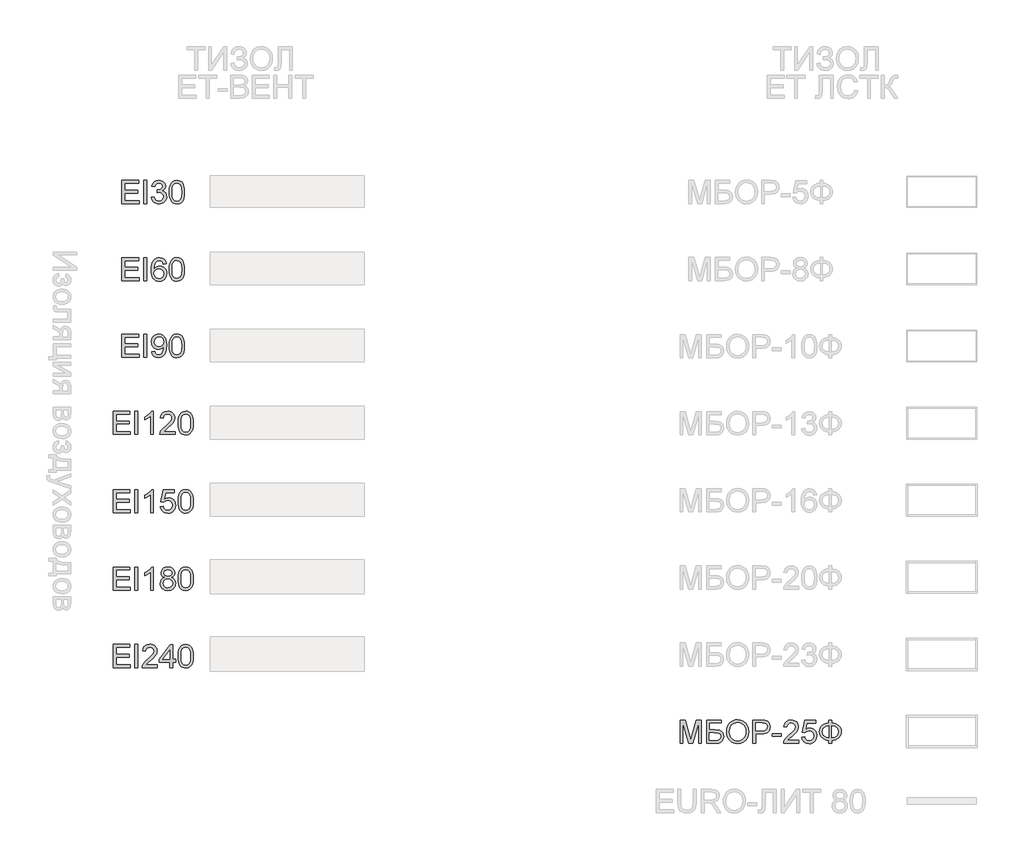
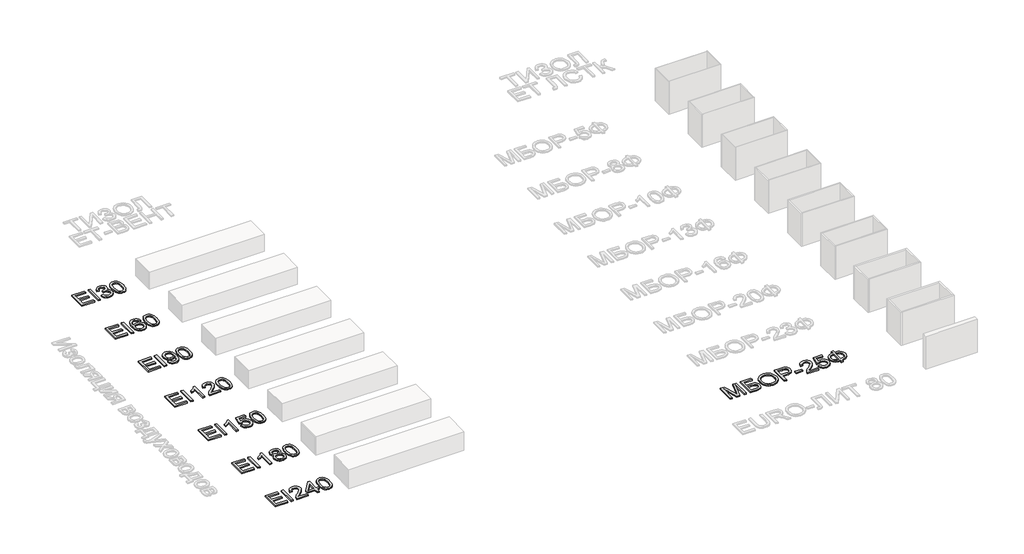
# One storey, part 11 of 35: 8 proxies.
"""IFC4 building model written with IfcOpenShell, lengths in millimetres."""

from ifc_helpers import new_model, si_unit, origin, origin_with_axes, place, context, project, spatial, polyline, outline, extrude, element, save

model = new_model("IFC4")

# Units and contexts
model_context = context("Model", 3, world=origin())
ifc_project = project(units=[si_unit("LENGTHUNIT", "METRE", prefix="MILLI")], contexts=[model_context])

# Site, building, storey
site = spatial("IfcSite", under=ifc_project)
building = spatial("IfcBuilding", under=site)
storey = spatial("IfcBuildingStorey", under=building, Name="Этаж 01", Elevation=0.0)

# Proxies
placement = place(None, origin())
element("IfcBuildingElementProxy", 1, Name="600 мм Arial", ObjectType="600 мм Arial", at=placement, inside=storey, context=model_context, shape_type="SweptSolid", body=[
    extrude(outline(polyline([(369.2738931, -49310.4960856), (369.2738931, -49009.1271552), (585.8828118, -49009.1271552), (585.8828118, -49046.7982715), (406.9450094, -49046.7982715), (406.9450094, -49136.2671727), (576.4650328, -49136.2671727), (576.4650328, -49173.938289), (406.9450094, -49173.938289), (406.9450094, -49272.8249693), (590.5917014, -49272.8249693), (590.5917014, -49310.4960856), (369.2738931, -49310.4960856)])), origin_with_axes(), (0.0, 0.0, 1.0), 20.0),
    extrude(outline(polyline([(651.8072654, -49310.4960856), (651.8072654, -49009.1271552), (689.4783817, -49009.1271552), (689.4783817, -49310.4960856), (651.8072654, -49310.4960856)])), origin_with_axes(), (0.0, 0.0, 1.0), 20.0),
    extrude(outline(polyline([(750.6939457, -49230.4449635), (788.365062, -49225.736074), (796.7987567, -49249.4092803), (809.1503947, -49265.393753), (826.0269812, -49274.4988324), (848.0355216, -49277.5338589), (873.8608377, -49273.3583982), (893.8000418, -49260.8320163), (906.5471529, -49242.1436109), (910.79619, -49219.48208), (906.5839411, -49197.9701804), (893.9471946, -49180.5233768), (874.8173308, -49168.9626851), (851.1257303, -49165.1091212), (824.7118031, -49169.2293995), (828.9056578, -49131.5582832), (834.9389226, -49131.9997416), (857.508483, -49129.2958089), (877.6868104, -49121.1840109), (891.9238436, -49107.4620125), (896.6695214, -49087.9274786), (893.2298247, -49071.6578973), (882.9107347, -49058.4601308), (867.1653853, -49049.7137363), (847.4469104, -49046.7982715), (827.6916473, -49049.7413275), (811.5416277, -49058.5704954), (799.7510097, -49073.2857752), (793.0739515, -49093.8871669), (755.4028352, -49089.1782774), (766.4944774, -49055.3515279), (786.2313464, -49030.0964289), (813.2338848, -49014.3694736), (846.1225352, -49009.1271552), (869.8049387, -49011.7115262), (891.5559616, -49019.4646393), (909.8948791, -49031.6967156), (923.340966, -49047.7179765), (931.5907197, -49066.1764556), (934.3406377, -49085.7201866), (931.7286755, -49103.9303454), (923.892789, -49120.4482469), (910.9433428, -49134.5197333), (892.9907014, -49145.3906462), (916.5719373, -49154.9187899), (934.0463321, -49171.1423859), (944.8620627, -49193.1785174), (948.4673063, -49220.1442676), (946.6646845, -49239.2557373), (941.2568192, -49256.8588908), (932.2437103, -49272.953728), (919.6253579, -49287.5402491), (904.252489, -49299.6435668), (886.9758308, -49308.2887937), (867.7953833, -49313.4759298), (846.7111464, -49315.2049752), (827.6548591, -49313.7288487), (810.2908289, -49309.3004692), (794.6190559, -49301.9198366), (780.6395401, -49291.5869511), (768.9179, -49278.9088178), (760.0197542, -49264.4924422), (753.9451028, -49248.337824), (750.6939457, -49230.4449635)])), origin_with_axes(), (0.0, 0.0, 1.0), 20.0),
    extrude(outline(polyline([(981.429533, -49162.2396416), (984.1978451, -49114.001115), (992.5027811, -49075.5298553), (1006.2615677, -49046.2372515), (1025.3914315, -49025.5346922), (1050.0303281, -49013.2290394), (1080.3162133, -49009.1271552), (1103.5295672, -49011.5551764), (1124.3149, -49018.8392399), (1141.6973242, -49030.6942372), (1154.7019528, -49046.8350597), (1164.524402, -49067.1237517), (1172.3602885, -49091.4223575), (1177.4922424, -49122.2784599), (1179.2028936, -49162.2396416), (1176.4621728, -49210.2022567), (1168.2400102, -49248.5815459), (1154.563997, -49277.9017409), (1135.4617244, -49298.6870736), (1110.7676455, -49311.0754998), (1080.3162133, -49315.2049752), (1059.5676688, -49313.4115505), (1041.1735691, -49308.0312763), (1025.1339141, -49299.0641526), (1011.4487038, -49286.5101796), (998.3153166, -49263.816459), (988.9343257, -49235.5401291), (983.3057312, -49201.68119), (981.429533, -49162.2396416)]), holes=[polyline([(1019.1006493, -49162.1660652), (1023.5152333, -49221.4226576), (1029.0334632, -49241.6906562), (1036.7589851, -49255.7184566), (1056.4774601, -49272.0800083), (1080.3162133, -49277.5338589), (1104.1549666, -49272.0616142), (1123.8734416, -49255.6448802), (1131.5989635, -49241.5940872), (1137.1171934, -49221.3306871), (1141.5317773, -49162.1660652), (1137.2643462, -49104.2430451), (1131.9300573, -49084.041725), (1124.4620528, -49069.6805316), (1104.780366, -49052.5188365), (1079.874755, -49046.7982715), (1056.2935191, -49051.8382548), (1037.3475963, -49066.9582048), (1029.364557, -49082.5931896), (1023.6623861, -49103.672828), (1019.1006493, -49162.1660652)])]), origin_with_axes(), (0.0, 0.0, 1.0), 20.0),
])
element("IfcBuildingElementProxy", 2, Name="600 мм Arial", ObjectType="600 мм Arial", at=placement, inside=storey, context=model_context, shape_type="SweptSolid", body=[
    extrude(outline(polyline([(369.2738931, -50313.4960856), (369.2738931, -50012.1271552), (585.8828118, -50012.1271552), (585.8828118, -50049.7982715), (406.9450094, -50049.7982715), (406.9450094, -50139.2671727), (576.4650328, -50139.2671727), (576.4650328, -50176.938289), (406.9450094, -50176.938289), (406.9450094, -50275.8249693), (590.5917014, -50275.8249693), (590.5917014, -50313.4960856), (369.2738931, -50313.4960856)])), origin_with_axes(), (0.0, 0.0, 1.0), 20.0),
    extrude(outline(polyline([(651.8072654, -50313.4960856), (651.8072654, -50012.1271552), (689.4783817, -50012.1271552), (689.4783817, -50313.4960856), (651.8072654, -50313.4960856)])), origin_with_axes(), (0.0, 0.0, 1.0), 20.0),
    extrude(outline(polyline([(943.7584167, -50092.1782774), (906.0873004, -50096.8871669), (900.0172475, -50078.2171556), (891.813479, -50065.4700445), (874.7253603, -50053.7162148), (854.0687863, -50049.7982715), (836.5576033, -50052.0791399), (820.07649, -50058.921745), (805.9222302, -50073.3335221), (794.3615385, -50093.1715587), (786.5532431, -50121.2317579), (783.6561724, -50160.3100229), (798.7669254, -50142.6792782), (816.8759166, -50130.2540639), (836.9714706, -50122.8872269), (858.0419119, -50120.4316146), (876.141706, -50122.1100762), (892.8435486, -50127.145461), (908.1474396, -50135.537769), (922.053379, -50147.2870002), (933.6094722, -50161.6941789), (941.8638245, -50178.0603291), (946.8164358, -50196.385451), (948.4673063, -50216.6695445), (945.3587034, -50243.6444918), (936.0328948, -50268.6512704), (921.2624327, -50289.8596675), (901.8198693, -50305.43947), (878.5881213, -50315.0135989), (852.4501055, -50318.2049752), (829.993209, -50316.0896537), (809.7114147, -50309.7436893), (791.6047228, -50299.1670819), (775.6731331, -50284.3598316), (762.6845994, -50264.696539), (753.4070754, -50239.5518046), (747.8405609, -50208.9256285), (745.9850561, -50172.8180107), (748.0451953, -50132.3371956), (754.2256128, -50097.7884778), (764.5263087, -50069.1718571), (778.9472829, -50046.4873335), (794.5776692, -50031.4547555), (812.700456, -50020.7171998), (833.3156433, -50014.2746663), (856.4232311, -50012.1271552), (889.4774283, -50017.44305), (915.9465379, -50033.3907345), (934.4877905, -50058.7194099), (943.7584167, -50092.1782774)]), holes=[polyline([(783.6561724, -50216.0809333), (785.8358733, -50232.7735789), (792.3749757, -50248.7120663), (802.5285188, -50262.4156706), (815.5515414, -50272.4036668), (831.2692997, -50278.5013109), (849.5070496, -50280.5338589), (874.3666754, -50276.32161), (893.9104064, -50263.6848635), (906.5747441, -50243.8192358), (910.79619, -50217.9203433), (906.6299264, -50193.0607175), (894.1311356, -50174.1055977), (874.2563108, -50162.1034476), (847.9619452, -50158.1027309), (823.1391076, -50162.1034476), (802.381366, -50174.1055977), (788.3374708, -50192.600865), (783.6561724, -50216.0809333)])]), origin_with_axes(), (0.0, 0.0, 1.0), 20.0),
    extrude(outline(polyline([(981.429533, -50165.2396416), (984.1978451, -50117.001115), (992.5027811, -50078.5298553), (1006.2615677, -50049.2372515), (1025.3914315, -50028.5346922), (1050.0303281, -50016.2290394), (1080.3162133, -50012.1271552), (1103.5295672, -50014.5551764), (1124.3149, -50021.8392399), (1141.6973242, -50033.6942372), (1154.7019528, -50049.8350597), (1164.524402, -50070.1237517), (1172.3602885, -50094.4223575), (1177.4922424, -50125.2784599), (1179.2028936, -50165.2396416), (1176.4621728, -50213.2022567), (1168.2400102, -50251.5815459), (1154.563997, -50280.9017409), (1135.4617244, -50301.6870736), (1110.7676455, -50314.0754998), (1080.3162133, -50318.2049752), (1059.5676688, -50316.4115505), (1041.1735691, -50311.0312763), (1025.1339141, -50302.0641526), (1011.4487038, -50289.5101796), (998.3153166, -50266.816459), (988.9343257, -50238.5401291), (983.3057312, -50204.68119), (981.429533, -50165.2396416)]), holes=[polyline([(1019.1006493, -50165.1660652), (1023.5152333, -50224.4226576), (1029.0334632, -50244.6906562), (1036.7589851, -50258.7184566), (1056.4774601, -50275.0800083), (1080.3162133, -50280.5338589), (1104.1549666, -50275.0616142), (1123.8734416, -50258.6448802), (1131.5989635, -50244.5940872), (1137.1171934, -50224.3306871), (1141.5317773, -50165.1660652), (1137.2643462, -50107.2430451), (1131.9300573, -50087.041725), (1124.4620528, -50072.6805316), (1104.780366, -50055.5188365), (1079.874755, -50049.7982715), (1056.2935191, -50054.8382548), (1037.3475963, -50069.9582048), (1029.364557, -50085.5931896), (1023.6623861, -50106.672828), (1019.1006493, -50165.1660652)])]), origin_with_axes(), (0.0, 0.0, 1.0), 20.0),
])
element("IfcBuildingElementProxy", 3, Name="600 мм Arial", ObjectType="600 мм Arial", at=placement, inside=storey, context=model_context, shape_type="SweptSolid", body=[
    extrude(outline(polyline([(369.2738931, -51305.4960856), (369.2738931, -51004.1271552), (585.8828118, -51004.1271552), (585.8828118, -51041.7982715), (406.9450094, -51041.7982715), (406.9450094, -51131.2671727), (576.4650328, -51131.2671727), (576.4650328, -51168.938289), (406.9450094, -51168.938289), (406.9450094, -51267.8249693), (590.5917014, -51267.8249693), (590.5917014, -51305.4960856), (369.2738931, -51305.4960856)])), origin_with_axes(), (0.0, 0.0, 1.0), 20.0),
    extrude(outline(polyline([(651.8072654, -51305.4960856), (651.8072654, -51004.1271552), (689.4783817, -51004.1271552), (689.4783817, -51305.4960856), (651.8072654, -51305.4960856)])), origin_with_axes(), (0.0, 0.0, 1.0), 20.0),
    extrude(outline(polyline([(755.4028352, -51230.153853), (793.0739515, -51225.4449635), (799.5118864, -51246.8281045), (809.9965233, -51261.3870344), (824.2703447, -51269.7471528), (842.0758333, -51272.5338589), (858.0511089, -51270.7404342), (872.5732507, -51265.36016), (884.6397801, -51256.9816475), (893.2482188, -51246.193508), (905.5722656, -51213.4520105), (911.0169192, -51169.7476294), (910.79619, -51162.3899895), (897.7455762, -51178.3192799), (880.6666546, -51190.9376324), (860.7918298, -51199.1597949), (839.3535065, -51201.9005158), (821.4583467, -51200.2266527), (805.0025252, -51195.2050635), (789.986042, -51186.8357481), (776.4088971, -51175.1187066), (765.1586059, -51160.6655427), (757.1226835, -51144.0878603), (752.3011301, -51125.3856593), (750.6939457, -51104.5589399), (752.3793051, -51083.0378432), (757.4353832, -51063.7240384), (765.8621802, -51046.6175256), (777.6596959, -51031.7183048), (791.9955974, -51019.6471769), (808.0375517, -51011.0249426), (825.7855587, -51005.8516021), (845.2396184, -51004.1271552), (873.3366058, -51008.0634925), (898.9136015, -51019.8725046), (920.3059395, -51038.9655801), (935.8489538, -51064.754108), (945.3127182, -51100.4018733), (948.4673063, -51149.0726613), (945.3219152, -51200.6773082), (935.885742, -51240.5649135), (920.2415602, -51270.5380991), (898.4721431, -51292.3994866), (871.5155899, -51305.753603), (840.3099997, -51310.2049752), (808.101931, -51304.9534597), (782.4053737, -51289.1989133), (764.4343382, -51263.9346172), (755.4028352, -51230.153853)]), holes=[polyline([(910.79619, -51103.6760231), (906.7310939, -51078.1450126), (894.5358058, -51058.5001141), (875.6082771, -51045.9737322), (851.3464595, -51041.7982715), (826.1833311, -51046.2956289), (806.0233977, -51059.7877011), (792.7796459, -51080.435078), (788.365062, -51106.3983499), (792.5405226, -51129.6760831), (805.0669046, -51148.1529563), (824.7301972, -51160.2102887), (850.31639, -51164.2293995), (874.3850695, -51160.2102887), (893.7632536, -51148.1529563), (906.5379559, -51128.9955014), (910.79619, -51103.6760231)])]), origin_with_axes(), (0.0, 0.0, 1.0), 20.0),
    extrude(outline(polyline([(981.429533, -51157.2396416), (984.1978451, -51109.001115), (992.5027811, -51070.5298553), (1006.2615677, -51041.2372515), (1025.3914315, -51020.5346922), (1050.0303281, -51008.2290394), (1080.3162133, -51004.1271552), (1103.5295672, -51006.5551764), (1124.3149, -51013.8392399), (1141.6973242, -51025.6942372), (1154.7019528, -51041.8350597), (1164.524402, -51062.1237517), (1172.3602885, -51086.4223575), (1177.4922424, -51117.2784599), (1179.2028936, -51157.2396416), (1176.4621728, -51205.2022567), (1168.2400102, -51243.5815459), (1154.563997, -51272.9017409), (1135.4617244, -51293.6870736), (1110.7676455, -51306.0754998), (1080.3162133, -51310.2049752), (1059.5676688, -51308.4115505), (1041.1735691, -51303.0312763), (1025.1339141, -51294.0641526), (1011.4487038, -51281.5101796), (998.3153166, -51258.816459), (988.9343257, -51230.5401291), (983.3057312, -51196.68119), (981.429533, -51157.2396416)]), holes=[polyline([(1019.1006493, -51157.1660652), (1023.5152333, -51216.4226576), (1029.0334632, -51236.6906562), (1036.7589851, -51250.7184566), (1056.4774601, -51267.0800083), (1080.3162133, -51272.5338589), (1104.1549666, -51267.0616142), (1123.8734416, -51250.6448802), (1131.5989635, -51236.5940872), (1137.1171934, -51216.3306871), (1141.5317773, -51157.1660652), (1137.2643462, -51099.2430451), (1131.9300573, -51079.041725), (1124.4620528, -51064.6805316), (1104.780366, -51047.5188365), (1079.874755, -51041.7982715), (1056.2935191, -51046.8382548), (1037.3475963, -51061.9582048), (1029.364557, -51077.5931896), (1023.6623861, -51098.672828), (1019.1006493, -51157.1660652)])]), origin_with_axes(), (0.0, 0.0, 1.0), 20.0),
])
element("IfcBuildingElementProxy", 4, Name="600 мм Arial", ObjectType="600 мм Arial", at=placement, inside=storey, context=model_context, shape_type="SweptSolid", body=[
    extrude(outline(polyline([(253.9060994, -52305.4960856), (253.9060994, -52004.1271552), (470.5150181, -52004.1271552), (470.5150181, -52041.7982715), (291.5772157, -52041.7982715), (291.5772157, -52131.2671727), (461.0972391, -52131.2671727), (461.0972391, -52168.938289), (291.5772157, -52168.938289), (291.5772157, -52267.8249693), (475.2239077, -52267.8249693), (475.2239077, -52305.4960856), (253.9060994, -52305.4960856)])), origin_with_axes(), (0.0, 0.0, 1.0), 20.0),
    extrude(outline(polyline([(536.4394717, -52305.4960856), (536.4394717, -52004.1271552), (574.110588, -52004.1271552), (574.110588, -52305.4960856), (536.4394717, -52305.4960856)])), origin_with_axes(), (0.0, 0.0, 1.0), 20.0),
    extrude(outline(polyline([(776.5928381, -52305.4960856), (738.9217218, -52305.4960856), (738.9217218, -52070.6402199), (703.2371683, -52096.0608658), (663.5794892, -52115.0803649), (663.5794892, -52079.4693878), (693.1663987, -52063.3745505), (718.7985767, -52044.2262927), (739.0044953, -52023.8640242), (752.3126264, -52004.1271552), (776.5928381, -52004.1271552), (776.5928381, -52305.4960856)])), origin_with_axes(), (0.0, 0.0, 1.0), 20.0),
    extrude(outline(polyline([(1059.1262104, -52267.8249693), (1059.1262104, -52305.4960856), (861.3528498, -52305.4960856), (865.3995518, -52279.5236168), (874.6885721, -52259.2257277), (888.2818119, -52239.5348439), (907.9451045, -52218.9242551), (935.4442836, -52195.8672511), (976.0952441, -52159.7596333), (1000.4858204, -52133.1065827), (1012.6811085, -52111.4751214), (1016.7462046, -52090.4322713), (1012.9110348, -52071.569122), (1001.4055254, -52055.8881519), (983.7195985, -52045.3207416), (961.3431761, -52041.7982715), (937.8447137, -52045.2379682), (919.5885697, -52055.5570581), (907.8071488, -52071.946201), (903.7328557, -52093.5960564), (866.0617394, -52088.8871669), (875.1944099, -52052.4484553), (883.7407685, -52037.9125179), (894.940476, -52025.8321929), (908.536015, -52016.3362389), (924.269868, -52009.5534146), (962.1525165, -52004.1271552), (982.3423402, -52005.6354714), (1000.3110764, -52010.1604199), (1016.0587251, -52017.7020008), (1029.5852862, -52028.2602141), (1040.4493014, -52041.0533105), (1048.2093122, -52055.2995407), (1052.8653187, -52070.9989049), (1054.4173209, -52088.1514029), (1052.7434578, -52106.1684236), (1047.7218686, -52123.8727446), (1038.8099272, -52141.8805683), (1025.4650079, -52160.8080969), (1004.1922315, -52183.4052485), (971.4967192, -52212.4219409), (928.1602201, -52248.6583174), (911.164072, -52267.8249693), (1059.1262104, -52267.8249693)])), origin_with_axes(), (0.0, 0.0, 1.0), 20.0),
    extrude(outline(polyline([(1096.7973267, -52157.2396416), (1099.5656387, -52109.001115), (1107.8705748, -52070.5298553), (1121.6293614, -52041.2372515), (1140.7592252, -52020.5346922), (1165.3981218, -52008.2290394), (1195.684007, -52004.1271552), (1218.8973609, -52006.5551764), (1239.6826937, -52013.8392399), (1257.0651179, -52025.6942372), (1270.0697465, -52041.8350597), (1279.8921957, -52062.1237517), (1287.7280822, -52086.4223575), (1292.8600361, -52117.2784599), (1294.5706873, -52157.2396416), (1291.8299665, -52205.2022567), (1283.6078039, -52243.5815459), (1269.9317907, -52272.9017409), (1250.8295181, -52293.6870736), (1226.1354392, -52306.0754998), (1195.684007, -52310.2049752), (1174.9354625, -52308.4115505), (1156.5413627, -52303.0312763), (1140.5017078, -52294.0641526), (1126.8164975, -52281.5101796), (1113.6831103, -52258.816459), (1104.3021194, -52230.5401291), (1098.6735249, -52196.68119), (1096.7973267, -52157.2396416)]), holes=[polyline([(1134.468443, -52157.1660652), (1138.883027, -52216.4226576), (1144.4012569, -52236.6906562), (1152.1267788, -52250.7184566), (1171.8452537, -52267.0800083), (1195.684007, -52272.5338589), (1219.5227603, -52267.0616142), (1239.2412353, -52250.6448802), (1246.9667572, -52236.5940872), (1252.4849871, -52216.3306871), (1256.899571, -52157.1660652), (1252.6321399, -52099.2430451), (1247.297851, -52079.041725), (1239.8298465, -52064.6805316), (1220.1481597, -52047.5188365), (1195.2425486, -52041.7982715), (1171.6613127, -52046.8382548), (1152.71539, -52061.9582048), (1144.7323507, -52077.5931896), (1139.0301798, -52098.672828), (1134.468443, -52157.1660652)])]), origin_with_axes(), (0.0, 0.0, 1.0), 20.0),
])
element("IfcBuildingElementProxy", 5, Name="600 мм Arial", ObjectType="600 мм Arial", at=placement, inside=storey, context=model_context, shape_type="SweptSolid", body=[
    extrude(outline(polyline([(253.9060994, -53321.4960856), (253.9060994, -53020.1271552), (470.5150181, -53020.1271552), (470.5150181, -53057.7982715), (291.5772157, -53057.7982715), (291.5772157, -53147.2671727), (461.0972391, -53147.2671727), (461.0972391, -53184.938289), (291.5772157, -53184.938289), (291.5772157, -53283.8249693), (475.2239077, -53283.8249693), (475.2239077, -53321.4960856), (253.9060994, -53321.4960856)])), origin_with_axes(), (0.0, 0.0, 1.0), 20.0),
    extrude(outline(polyline([(536.4394717, -53321.4960856), (536.4394717, -53020.1271552), (574.110588, -53020.1271552), (574.110588, -53321.4960856), (536.4394717, -53321.4960856)])), origin_with_axes(), (0.0, 0.0, 1.0), 20.0),
    extrude(outline(polyline([(776.5928381, -53321.4960856), (738.9217218, -53321.4960856), (738.9217218, -53086.6402199), (703.2371683, -53112.0608658), (663.5794892, -53131.0803649), (663.5794892, -53095.4693878), (693.1663987, -53079.3745505), (718.7985767, -53060.2262927), (739.0044953, -53039.8640242), (752.3126264, -53020.1271552), (776.5928381, -53020.1271552), (776.5928381, -53321.4960856)])), origin_with_axes(), (0.0, 0.0, 1.0), 20.0),
    extrude(outline(polyline([(866.0617394, -53241.4449635), (903.7328557, -53236.736074), (910.6490372, -53259.3516196), (922.7155666, -53275.5476245), (939.8772617, -53285.2873003), (962.0789401, -53288.5338589), (989.0814785, -53284.0181074), (1009.3149883, -53270.4708529), (1021.9517348, -53249.4555939), (1026.1639837, -53222.5358289), (1022.2184493, -53197.1887595), (1010.3818461, -53177.8013783), (990.5622036, -53165.4957256), (962.6675513, -53161.3938413), (944.3930132, -53163.0309162), (929.5949599, -53167.9421409), (908.4417452, -53184.938289), (870.7706289, -53180.2293995), (903.7328557, -53024.8360447), (1049.7084313, -53024.8360447), (1049.7084313, -53062.507161), (934.1934849, -53062.507161), (918.0802535, -53145.5013392), (944.9908214, -53129.1673786), (973.1889763, -53123.722725), (991.5347916, -53125.4103837), (1008.3860862, -53130.4733597), (1023.7428603, -53138.9116529), (1037.6051137, -53150.7252635), (1049.0807327, -53165.1922229), (1057.2776034, -53181.5905629), (1062.1957258, -53199.9202833), (1063.8351, -53220.1813842), (1057.9305939, -53257.8525005), (1050.5499614, -53274.6463136), (1040.2170759, -53290.0789633), (1024.563697, -53305.8840935), (1006.2983559, -53317.1734722), (985.4210527, -53323.9470994), (961.9317873, -53326.2049752), (924.9320556, -53320.4016367), (909.2533849, -53313.1474636), (895.4555108, -53302.9916213), (883.9752933, -53290.4399475), (875.2495922, -53275.9982799), (866.0617394, -53241.4449635)])), origin_with_axes(), (0.0, 0.0, 1.0), 20.0),
    extrude(outline(polyline([(1096.7973267, -53173.2396416), (1099.5656387, -53125.001115), (1107.8705748, -53086.5298553), (1121.6293614, -53057.2372515), (1140.7592252, -53036.5346922), (1165.3981218, -53024.2290394), (1195.684007, -53020.1271552), (1218.8973609, -53022.5551764), (1239.6826937, -53029.8392399), (1257.0651179, -53041.6942372), (1270.0697465, -53057.8350597), (1279.8921957, -53078.1237517), (1287.7280822, -53102.4223575), (1292.8600361, -53133.2784599), (1294.5706873, -53173.2396416), (1291.8299665, -53221.2022567), (1283.6078039, -53259.5815459), (1269.9317907, -53288.9017409), (1250.8295181, -53309.6870736), (1226.1354392, -53322.0754998), (1195.684007, -53326.2049752), (1174.9354625, -53324.4115505), (1156.5413627, -53319.0312763), (1140.5017078, -53310.0641526), (1126.8164975, -53297.5101796), (1113.6831103, -53274.816459), (1104.3021194, -53246.5401291), (1098.6735249, -53212.68119), (1096.7973267, -53173.2396416)]), holes=[polyline([(1134.468443, -53173.1660652), (1138.883027, -53232.4226576), (1144.4012569, -53252.6906562), (1152.1267788, -53266.7184566), (1171.8452537, -53283.0800083), (1195.684007, -53288.5338589), (1219.5227603, -53283.0616142), (1239.2412353, -53266.6448802), (1246.9667572, -53252.5940872), (1252.4849871, -53232.3306871), (1256.899571, -53173.1660652), (1252.6321399, -53115.2430451), (1247.297851, -53095.041725), (1239.8298465, -53080.6805316), (1220.1481597, -53063.5188365), (1195.2425486, -53057.7982715), (1171.6613127, -53062.8382548), (1152.71539, -53077.9582048), (1144.7323507, -53093.5931896), (1139.0301798, -53114.672828), (1134.468443, -53173.1660652)])]), origin_with_axes(), (0.0, 0.0, 1.0), 20.0),
])
element("IfcBuildingElementProxy", 6, Name="600 мм Arial", ObjectType="600 мм Arial", at=placement, inside=storey, context=model_context, shape_type="SweptSolid", body=[
    extrude(outline(polyline([(253.9060994, -54325.4960856), (253.9060994, -54024.1271552), (470.5150181, -54024.1271552), (470.5150181, -54061.7982715), (291.5772157, -54061.7982715), (291.5772157, -54151.2671727), (461.0972391, -54151.2671727), (461.0972391, -54188.938289), (291.5772157, -54188.938289), (291.5772157, -54287.8249693), (475.2239077, -54287.8249693), (475.2239077, -54325.4960856), (253.9060994, -54325.4960856)])), origin_with_axes(), (0.0, 0.0, 1.0), 20.0),
    extrude(outline(polyline([(536.4394717, -54325.4960856), (536.4394717, -54024.1271552), (574.110588, -54024.1271552), (574.110588, -54325.4960856), (536.4394717, -54325.4960856)])), origin_with_axes(), (0.0, 0.0, 1.0), 20.0),
    extrude(outline(polyline([(776.5928381, -54325.4960856), (738.9217218, -54325.4960856), (738.9217218, -54090.6402199), (703.2371683, -54116.0608658), (663.5794892, -54135.0803649), (663.5794892, -54099.4693878), (693.1663987, -54083.3745505), (718.7985767, -54064.2262927), (739.0044953, -54043.8640242), (752.3126264, -54024.1271552), (776.5928381, -54024.1271552), (776.5928381, -54325.4960856)])), origin_with_axes(), (0.0, 0.0, 1.0), 20.0),
    extrude(outline(polyline([(920.949733, -54159.5077294), (900.7806026, -54149.5749156), (886.6263429, -54136.1104345), (878.2662245, -54119.3901979), (875.4795184, -54099.690117), (876.9970317, -54084.3264452), (881.5495714, -54070.2411633), (889.1371375, -54057.4342713), (899.7597301, -54045.9057693), (912.9069129, -54036.3776256), (928.0682496, -54029.5718087), (964.4333849, -54024.1271552), (1001.0192493, -54029.7005674), (1016.3461329, -54036.6673327), (1029.6956508, -54046.4208041), (1040.5113815, -54058.1746339), (1048.2369034, -54071.1424742), (1052.8722165, -54085.3243251), (1054.4173209, -54100.7201866), (1051.667403, -54119.785671), (1043.4176492, -54136.2207991), (1029.5760892, -54149.6025067), (1010.0507523, -54159.5077294), (1033.236515, -54171.4546972), (1050.1131015, -54189.0486536), (1060.4046004, -54211.4434701), (1063.8351, -54237.793018), (1062.1336457, -54256.5825909), (1057.0292831, -54273.8086653), (1048.5220119, -54289.4712413), (1036.6118323, -54303.5703187), (1021.9241437, -54315.2229809), (1005.0843453, -54323.5463111), (986.0924373, -54328.5403092), (964.9484197, -54330.2049752), (943.804402, -54328.5334114), (924.812494, -54323.5187199), (907.9726957, -54315.1609008), (893.285007, -54303.4599541), (881.3748274, -54289.2620084), (872.8675563, -54273.4131922), (867.7631936, -54255.9135055), (866.0617394, -54236.7629484), (869.6301947, -54209.392528), (880.3355608, -54186.8781499), (897.6260145, -54169.9923663), (920.949733, -54159.5077294)]), holes=[polyline([(903.7328557, -54235.4385732), (910.0236378, -54263.8022751), (918.733244, -54275.969972), (932.2804985, -54285.0290662), (948.5040945, -54290.6576607), (965.2427253, -54292.5338589), (990.8841003, -54288.5883245), (1010.1243287, -54276.7517213), (1022.1540699, -54258.8266711), (1026.1639837, -54236.6157956), (1022.0253112, -54214.0278411), (1009.6092939, -54195.7073178), (989.9276071, -54183.5672119), (963.9919265, -54179.52051), (938.7092364, -54183.5120296), (919.6621461, -54195.4865886), (907.7151783, -54213.457624), (903.7328557, -54235.4385732)]), polyline([(913.1506347, -54100.793763), (916.4891638, -54117.2380882), (926.5047512, -54130.3714754), (942.9030911, -54138.9799141), (965.3898781, -54141.8493937), (987.3524332, -54138.9983082), (1003.5024528, -54130.4450518), (1013.4352666, -54117.753123), (1016.7462046, -54102.4860202), (1013.324902, -54086.6395032), (1003.0609944, -54073.5337072), (986.6902456, -54064.7321304), (964.9484197, -54061.7982715), (943.068638, -54064.6677511), (926.7254804, -54073.2761898), (916.5443461, -54085.8945422), (913.1506347, -54100.793763)])]), origin_with_axes(), (0.0, 0.0, 1.0), 20.0),
    extrude(outline(polyline([(1096.7973267, -54177.2396416), (1099.5656387, -54129.001115), (1107.8705748, -54090.5298553), (1121.6293614, -54061.2372515), (1140.7592252, -54040.5346922), (1165.3981218, -54028.2290394), (1195.684007, -54024.1271552), (1218.8973609, -54026.5551764), (1239.6826937, -54033.8392399), (1257.0651179, -54045.6942372), (1270.0697465, -54061.8350597), (1279.8921957, -54082.1237517), (1287.7280822, -54106.4223575), (1292.8600361, -54137.2784599), (1294.5706873, -54177.2396416), (1291.8299665, -54225.2022567), (1283.6078039, -54263.5815459), (1269.9317907, -54292.9017409), (1250.8295181, -54313.6870736), (1226.1354392, -54326.0754998), (1195.684007, -54330.2049752), (1174.9354625, -54328.4115505), (1156.5413627, -54323.0312763), (1140.5017078, -54314.0641526), (1126.8164975, -54301.5101796), (1113.6831103, -54278.816459), (1104.3021194, -54250.5401291), (1098.6735249, -54216.68119), (1096.7973267, -54177.2396416)]), holes=[polyline([(1134.468443, -54177.1660652), (1138.883027, -54236.4226576), (1144.4012569, -54256.6906562), (1152.1267788, -54270.7184566), (1171.8452537, -54287.0800083), (1195.684007, -54292.5338589), (1219.5227603, -54287.0616142), (1239.2412353, -54270.6448802), (1246.9667572, -54256.5940872), (1252.4849871, -54236.3306871), (1256.899571, -54177.1660652), (1252.6321399, -54119.2430451), (1247.297851, -54099.041725), (1239.8298465, -54084.6805316), (1220.1481597, -54067.5188365), (1195.2425486, -54061.7982715), (1171.6613127, -54066.8382548), (1152.71539, -54081.9582048), (1144.7323507, -54097.5931896), (1139.0301798, -54118.672828), (1134.468443, -54177.1660652)])]), origin_with_axes(), (0.0, 0.0, 1.0), 20.0),
])
element("IfcBuildingElementProxy", 7, Name="600 мм Arial", ObjectType="600 мм Arial", at=placement, inside=storey, context=model_context, shape_type="SweptSolid", body=[
    extrude(outline(polyline([(253.9060994, -55328.4960856), (253.9060994, -55027.1271552), (470.5150181, -55027.1271552), (470.5150181, -55064.7982715), (291.5772157, -55064.7982715), (291.5772157, -55154.2671727), (461.0972391, -55154.2671727), (461.0972391, -55191.938289), (291.5772157, -55191.938289), (291.5772157, -55290.8249693), (475.2239077, -55290.8249693), (475.2239077, -55328.4960856), (253.9060994, -55328.4960856)])), origin_with_axes(), (0.0, 0.0, 1.0), 20.0),
    extrude(outline(polyline([(536.4394717, -55328.4960856), (536.4394717, -55027.1271552), (574.110588, -55027.1271552), (574.110588, -55328.4960856), (536.4394717, -55328.4960856)])), origin_with_axes(), (0.0, 0.0, 1.0), 20.0),
    extrude(outline(polyline([(828.390623, -55290.8249693), (828.390623, -55328.4960856), (630.6172624, -55328.4960856), (634.6639644, -55302.5236168), (643.9529848, -55282.2257277), (657.5462245, -55262.5348439), (677.2095171, -55241.9242551), (704.7086963, -55218.8672511), (745.3596567, -55182.7596333), (769.750233, -55156.1065827), (781.9455212, -55134.4751214), (786.0106172, -55113.4322713), (782.1754474, -55094.569122), (770.669938, -55078.8881519), (752.9840111, -55068.3207416), (730.6075887, -55064.7982715), (707.1091263, -55068.2379682), (688.8529823, -55078.5570581), (677.0715614, -55094.946201), (672.9972683, -55116.5960564), (635.326152, -55111.8871669), (644.4588225, -55075.4484553), (653.0051811, -55060.9125179), (664.2048886, -55048.8321929), (677.8004276, -55039.3362389), (693.5342807, -55032.5534146), (731.4169291, -55027.1271552), (751.6067529, -55028.6354714), (769.5754891, -55033.1604199), (785.3231377, -55040.7020008), (798.8496988, -55051.2602141), (809.713714, -55064.0533105), (817.4737248, -55078.2995407), (822.1297313, -55093.9989049), (823.6817335, -55111.1514029), (822.0078704, -55129.1684236), (816.9862812, -55146.8727446), (808.0743399, -55164.8805683), (794.7294205, -55183.8080969), (773.4566441, -55206.4052485), (740.7611318, -55235.4219409), (697.4246328, -55271.6583174), (680.4284846, -55290.8249693), (828.390623, -55290.8249693)])), origin_with_axes(), (0.0, 0.0, 1.0), 20.0),
    extrude(outline(polyline([(988.4928673, -55328.4960856), (988.4928673, -55257.8627426), (851.9350707, -55257.8627426), (851.9350707, -55220.1916263), (997.9106464, -55031.8360447), (1026.1639837, -55031.8360447), (1026.1639837, -55220.1916263), (1063.8351, -55220.1916263), (1063.8351, -55257.8627426), (1026.1639837, -55257.8627426), (1026.1639837, -55328.4960856), (988.4928673, -55328.4960856)]), holes=[polyline([(988.4928673, -55220.1916263), (988.4928673, -55103.793763), (898.2882021, -55220.1916263), (988.4928673, -55220.1916263)])]), origin_with_axes(), (0.0, 0.0, 1.0), 20.0),
    extrude(outline(polyline([(1096.7973267, -55180.2396416), (1099.5656387, -55132.001115), (1107.8705748, -55093.5298553), (1121.6293614, -55064.2372515), (1140.7592252, -55043.5346922), (1165.3981218, -55031.2290394), (1195.684007, -55027.1271552), (1218.8973609, -55029.5551764), (1239.6826937, -55036.8392399), (1257.0651179, -55048.6942372), (1270.0697465, -55064.8350597), (1279.8921957, -55085.1237517), (1287.7280822, -55109.4223575), (1292.8600361, -55140.2784599), (1294.5706873, -55180.2396416), (1291.8299665, -55228.2022567), (1283.6078039, -55266.5815459), (1269.9317907, -55295.9017409), (1250.8295181, -55316.6870736), (1226.1354392, -55329.0754998), (1195.684007, -55333.2049752), (1174.9354625, -55331.4115505), (1156.5413627, -55326.0312763), (1140.5017078, -55317.0641526), (1126.8164975, -55304.5101796), (1113.6831103, -55281.816459), (1104.3021194, -55253.5401291), (1098.6735249, -55219.68119), (1096.7973267, -55180.2396416)]), holes=[polyline([(1134.468443, -55180.1660652), (1138.883027, -55239.4226576), (1144.4012569, -55259.6906562), (1152.1267788, -55273.7184566), (1171.8452537, -55290.0800083), (1195.684007, -55295.5338589), (1219.5227603, -55290.0616142), (1239.2412353, -55273.6448802), (1246.9667572, -55259.5940872), (1252.4849871, -55239.3306871), (1256.899571, -55180.1660652), (1252.6321399, -55122.2430451), (1247.297851, -55102.041725), (1239.8298465, -55087.6805316), (1220.1481597, -55070.5188365), (1195.2425486, -55064.7982715), (1171.6613127, -55069.8382548), (1152.71539, -55084.9582048), (1144.7323507, -55100.5931896), (1139.0301798, -55121.672828), (1134.468443, -55180.1660652)])]), origin_with_axes(), (0.0, 0.0, 1.0), 20.0),
])
element("IfcBuildingElementProxy", 8, Name="600 мм Arial", ObjectType="600 мм Arial", at=placement, inside=storey, context=model_context, shape_type="SweptSolid", body=[
    extrude(outline(polyline([(7606.5104711, -56310.4960856), (7606.5104711, -56009.1271552), (7671.3312786, -56009.1271552), (7732.988301, -56221.5422192), (7745.4227125, -56265.9087878), (7758.8871935, -56217.8633993), (7819.5141463, -56009.1271552), (7884.3349539, -56009.1271552), (7884.3349539, -56310.4960856), (7846.6638375, -56310.4960856), (7846.6638375, -56046.7982715), (7770.9537229, -56310.4960856), (7719.891702, -56310.4960856), (7644.1815874, -56046.7982715), (7644.1815874, -56310.4960856), (7606.5104711, -56310.4960856)])), origin_with_axes(), (0.0, 0.0, 1.0), 20.0),
    extrude(outline(polyline([(7950.2594074, -56009.1271552), (8138.6149889, -56009.1271552), (8138.6149889, -56046.7982715), (7987.9305237, -56046.7982715), (7987.9305237, -56136.2671727), (8058.4902904, -56136.2671727), (8093.5678386, -56138.1801591), (8120.6623476, -56143.9191182), (8141.4660744, -56154.9739722), (8157.6712763, -56172.8346431), (8168.1007308, -56195.8272678), (8171.5772157, -56222.2779832), (8169.1032093, -56244.4888587), (8161.68119, -56265.209812), (8149.3479461, -56283.3555915), (8132.1402658, -56297.840945), (8105.5975799, -56307.3323005), (8065.2593191, -56310.4960856), (7950.2594074, -56310.4960856), (7950.2594074, -56009.1271552)]), holes=[polyline([(7987.9305237, -56272.8249693), (8068.6438334, -56272.8249693), (8097.1730822, -56269.7163665), (8117.5721388, -56260.3905579), (8129.8226092, -56244.8475436), (8133.9060994, -56223.0873236), (8131.5700487, -56206.8821217), (8124.5618967, -56193.5831876), (8113.3874811, -56183.7239501), (8098.5526396, -56177.8378382), (8041.7884478, -56173.938289), (7987.9305237, -56173.938289), (7987.9305237, -56272.8249693)])]), origin_with_axes(), (0.0, 0.0, 1.0), 20.0),
    extrude(outline(polyline([(8209.248332, -56163.784746), (8211.7591266, -56128.4358848), (8219.2915105, -56097.1429225), (8231.8454835, -56069.9058593), (8249.4210459, -56046.7246951), (8270.9651352, -56028.2156322), (8295.4246894, -56014.994873), (8322.7997083, -56007.0624175), (8353.0901921, -56004.4182657), (8392.6191125, -56009.3846726), (8428.0645427, -56024.2838934), (8457.4951023, -56048.0674644), (8478.9794109, -56079.6869219), (8492.1127981, -56117.6155556), (8496.4905938, -56160.3266552), (8491.8828718, -56203.607972), (8478.0597059, -56242.0700345), (8455.7844511, -56273.7446743), (8425.8204626, -56296.6637226), (8390.678535, -56310.569662), (8352.8694629, -56315.2049752), (8312.7335372, -56310.0822184), (8277.0857719, -56294.7139481), (8247.7287887, -56270.4889187), (8226.4652094, -56238.7958848), (8213.5525513, -56202.329582), (8209.248332, -56163.784746)]), holes=[polyline([(8246.9194483, -56164.152628), (8248.8025443, -56189.1272169), (8254.4518321, -56211.2967056), (8263.867312, -56230.6610942), (8277.0489837, -56247.2203825), (8293.0725439, -56260.4825284), (8311.0136889, -56269.9554898), (8330.8724189, -56275.6392666), (8352.6487337, -56277.5338589), (8374.7975291, -56275.6208725), (8394.8907838, -56269.8819134), (8412.9284979, -56260.3169815), (8428.9106713, -56246.9260769), (8441.995774, -56230.0173007), (8451.342276, -56209.8987541), (8456.9501771, -56186.570437), (8458.8194775, -56160.0323496), (8455.6189042, -56126.6838468), (8446.0171841, -56097.8602924), (8430.2626376, -56074.2882536), (8408.6035852, -56056.6942972), (8382.4747665, -56045.7406108), (8353.3109213, -56042.089382), (8332.2910638, -56043.8483178), (8312.7887195, -56049.1251251), (8294.8038885, -56057.9198041), (8278.3365707, -56070.2323546), (8264.5915796, -56086.6559864), (8254.7737289, -56107.7839093), (8248.8830184, -56133.6161231), (8246.9194483, -56164.152628)])]), origin_with_axes(), (0.0, 0.0, 1.0), 20.0),
    extrude(outline(polyline([(8548.2883787, -56310.4960856), (8548.2883787, -56009.1271552), (8659.9773525, -56009.1271552), (8705.0061087, -56011.9966348), (8725.0832686, -56017.3585148), (8741.6103672, -56026.0865152), (8754.9184984, -56038.5761089), (8765.3387559, -56055.2227692), (8772.0709964, -56074.8584707), (8774.3150766, -56096.3151881), (8772.7998626, -56114.8150539), (8768.2542207, -56131.8341947), (8760.6781509, -56147.3726105), (8750.0716531, -56161.4303012), (8735.5104239, -56173.0829634), (8716.0701597, -56181.4062935), (8691.7508606, -56186.4002916), (8662.5525264, -56188.0649577), (8585.9594951, -56188.0649577), (8585.9594951, -56310.4960856), (8548.2883787, -56310.4960856)]), holes=[polyline([(8585.9594951, -56150.3938413), (8664.7598184, -56150.3938413), (8698.1635036, -56146.9357506), (8720.2364233, -56136.5614783), (8732.542076, -56119.914818), (8736.6439603, -56097.6395632), (8734.2251362, -56080.7169915), (8726.9686638, -56066.44317), (8715.7758541, -56055.7010158), (8701.5480179, -56049.3734455), (8663.8769016, -56046.7982715), (8585.9594951, -56046.7982715), (8585.9594951, -56150.3938413)])]), origin_with_axes(), (0.0, 0.0, 1.0), 20.0),
    extrude(outline(polyline([(8802.5684138, -56221.0271844), (8802.5684138, -56183.3560681), (8920.2906523, -56183.3560681), (8920.2906523, -56221.0271844), (8802.5684138, -56221.0271844)])), origin_with_axes(), (0.0, 0.0, 1.0), 20.0),
    extrude(outline(polyline([(9146.3173501, -56272.8249693), (9146.3173501, -56310.4960856), (8948.5439895, -56310.4960856), (8952.5906914, -56284.5236168), (8961.8797118, -56264.2257277), (8975.4729515, -56244.5348439), (8995.1362442, -56223.9242551), (9022.6354233, -56200.8672511), (9063.2863838, -56164.7596333), (9087.6769601, -56138.1065827), (9099.8722482, -56116.4751214), (9103.9373443, -56095.4322713), (9100.1021745, -56076.569122), (9088.5966651, -56060.8881519), (9070.9107381, -56050.3207416), (9048.5343158, -56046.7982715), (9025.0358533, -56050.2379682), (9006.7797093, -56060.5570581), (8994.9982884, -56076.946201), (8990.9239953, -56098.5960564), (8953.252879, -56093.8871669), (8962.3855496, -56057.4484553), (8970.9319082, -56042.9125179), (8982.1316157, -56030.8321929), (8995.7271546, -56021.3362389), (9011.4610077, -56014.5534146), (9049.3436562, -56009.1271552), (9069.5334799, -56010.6354714), (9087.5022161, -56015.1604199), (9103.2498648, -56022.7020008), (9116.7764259, -56033.2602141), (9127.6404411, -56046.0533105), (9135.4004519, -56060.2995407), (9140.0564584, -56075.9989049), (9141.6084606, -56093.1514029), (9139.9345975, -56111.1684236), (9134.9130083, -56128.8727446), (9126.0010669, -56146.8805683), (9112.6561475, -56165.8080969), (9091.3833712, -56188.4052485), (9058.6878589, -56217.4219409), (9015.3513598, -56253.6583174), (8998.3552116, -56272.8249693), (9146.3173501, -56272.8249693)])), origin_with_axes(), (0.0, 0.0, 1.0), 20.0),
    extrude(outline(polyline([(9183.9884664, -56230.4449635), (9221.6595827, -56225.736074), (9228.5757642, -56248.3516196), (9240.6422937, -56264.5476245), (9257.8039887, -56274.2873003), (9280.0056672, -56277.5338589), (9307.0082056, -56273.0181074), (9327.2417153, -56259.4708529), (9339.8784619, -56238.4555939), (9344.0907107, -56211.5358289), (9340.1451763, -56186.1887595), (9328.3085731, -56166.8013783), (9308.4889306, -56154.4957256), (9280.5942783, -56150.3938413), (9262.3197402, -56152.0309162), (9247.521687, -56156.9421409), (9226.3684723, -56173.938289), (9188.697356, -56169.2293995), (9221.6595827, -56013.8360447), (9367.6351584, -56013.8360447), (9367.6351584, -56051.507161), (9252.1202119, -56051.507161), (9236.0069805, -56134.5013392), (9262.9175485, -56118.1673786), (9291.1157034, -56112.722725), (9309.4615187, -56114.4103837), (9326.3128133, -56119.4733597), (9341.6695873, -56127.9116529), (9355.5318408, -56139.7252635), (9367.0074598, -56154.1922229), (9375.2043305, -56170.5905629), (9380.1224529, -56188.9202833), (9381.761827, -56209.1813842), (9375.857321, -56246.8525005), (9368.4766885, -56263.6463136), (9358.1438029, -56279.0789633), (9342.490424, -56294.8840935), (9324.225083, -56306.1734722), (9303.3477797, -56312.9470994), (9279.8585144, -56315.2049752), (9242.8587827, -56309.4016367), (9227.1801119, -56302.1474636), (9213.3822378, -56291.9916213), (9201.9020203, -56279.4399475), (9193.1763192, -56264.9982799), (9183.9884664, -56230.4449635)])), origin_with_axes(), (0.0, 0.0, 1.0), 20.0),
    extrude(outline(polyline([(9537.1551818, -56046.7982715), (9537.1551818, -56009.1271552), (9574.8262981, -56009.1271552), (9574.8262981, -56046.7982715), (9601.6977786, -56050.1184065), (9625.5848164, -56056.9886028), (9646.4874115, -56067.4088603), (9664.4055639, -56081.3791791), (9678.7782536, -56098.0856202), (9689.0444605, -56116.7142447), (9695.2041847, -56137.2650526), (9697.2574261, -56159.738044), (9695.268564, -56181.76038), (9689.3019779, -56202.0628676), (9679.3576678, -56220.6455069), (9665.4356335, -56237.5082978), (9647.8393778, -56251.7177399), (9626.8724034, -56262.3403325), (9602.5347101, -56269.3760756), (9574.8262981, -56272.8249693), (9574.8262981, -56310.4960856), (9537.1551818, -56310.4960856), (9537.1551818, -56272.8249693), (9511.9874548, -56270.0175699), (9489.0178227, -56263.6555106), (9468.2462856, -56253.7387916), (9449.6728433, -56240.2674128), (9434.3827479, -56223.7977957), (9423.4612512, -56204.8863619), (9416.9083531, -56183.5331113), (9414.7240538, -56159.738044), (9416.9014553, -56135.8349114), (9423.43366, -56114.4517704), (9434.3206678, -56095.5886211), (9449.5624787, -56079.2454635), (9468.101432, -56065.9051426), (9488.879867, -56056.0505037), (9511.8977836, -56049.6815466), (9537.1551818, -56046.7982715)]), holes=[polyline([(9537.1551818, -56084.4693878), (9502.8777769, -56090.5026525), (9475.8292532, -56105.5122379), (9465.5768418, -56116.217604), (9458.2536909, -56128.8359564), (9453.8598003, -56143.3672952), (9452.3951701, -56159.8116204), (9453.8414062, -56176.1064935), (9458.1801145, -56190.5573582), (9465.4112949, -56203.1642143), (9475.5349476, -56213.9270619), (9502.5098949, -56229.0746031), (9537.1551818, -56235.153853), (9537.1551818, -56084.4693878)]), polyline([(9574.8262981, -56084.4693878), (9574.8262981, -56235.153853), (9610.0693932, -56228.9274503), (9636.9247789, -56213.7799091), (9646.8391986, -56203.0538497), (9653.9209271, -56190.4837818), (9659.5863098, -56159.8116204), (9654.0220946, -56129.5533263), (9647.0668256, -56117.0591341), (9637.3294491, -56106.3215783), (9610.575231, -56090.9992932), (9574.8262981, -56084.4693878)])]), origin_with_axes(), (0.0, 0.0, 1.0), 20.0),
])

save(model, "model.ifc")
